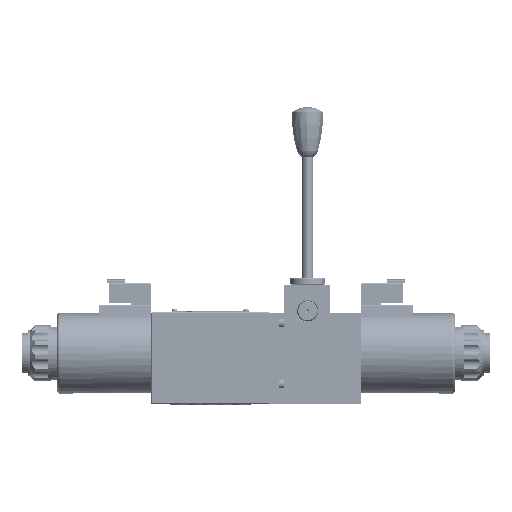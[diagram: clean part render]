
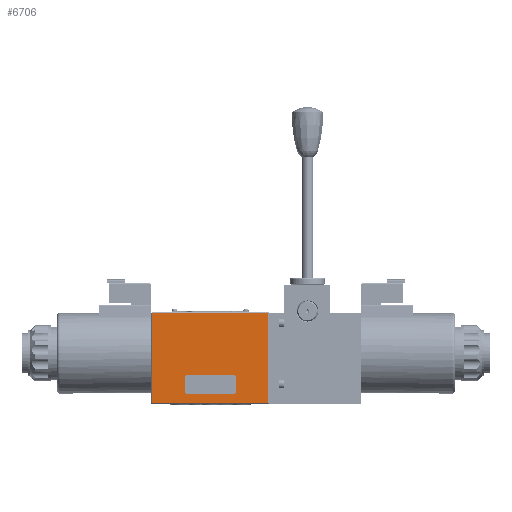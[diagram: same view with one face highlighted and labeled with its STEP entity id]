
A CAD part, front view. The second image highlights one B-rep face of the part: STEP entity #6706.
In plain terms, the highlighted planar face has unit normal (0, -1, 0).
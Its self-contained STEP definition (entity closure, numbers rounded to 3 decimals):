
#2874=LINE('',#50150,#4000);
#2875=LINE('',#50153,#4001);
#2876=LINE('',#50155,#4002);
#2877=LINE('',#50157,#4003);
#2878=LINE('',#50158,#4004);
#2879=LINE('',#50163,#4005);
#2880=LINE('',#50167,#4006);
#2881=LINE('',#50171,#4007);
#4000=VECTOR('',#24646,1.);
#4001=VECTOR('',#24647,1.);
#4002=VECTOR('',#24648,1.);
#4003=VECTOR('',#24649,1.);
#4004=VECTOR('',#24650,1.);
#4005=VECTOR('',#24653,1.);
#4006=VECTOR('',#24656,1.);
#4007=VECTOR('',#24659,1.);
#5969=PLANE('',#22180);
#6706=ADVANCED_FACE('',(#8323,#8324),#5969,.T.);
#8323=FACE_BOUND('',#9114,.T.);
#8324=FACE_BOUND('',#9115,.T.);
#9114=EDGE_LOOP('',(#11316,#11317,#11318,#11319));
#9115=EDGE_LOOP('',(#11320,#11321,#11322,#11323,#11324,#11325,#11326,#11327));
#11316=ORIENTED_EDGE('',*,*,#18896,.T.);
#11317=ORIENTED_EDGE('',*,*,#18897,.T.);
#11318=ORIENTED_EDGE('',*,*,#18898,.T.);
#11319=ORIENTED_EDGE('',*,*,#18899,.T.);
#11320=ORIENTED_EDGE('',*,*,#18900,.F.);
#11321=ORIENTED_EDGE('',*,*,#18901,.F.);
#11322=ORIENTED_EDGE('',*,*,#18902,.F.);
#11323=ORIENTED_EDGE('',*,*,#18903,.F.);
#11324=ORIENTED_EDGE('',*,*,#18904,.F.);
#11325=ORIENTED_EDGE('',*,*,#18905,.F.);
#11326=ORIENTED_EDGE('',*,*,#18906,.F.);
#11327=ORIENTED_EDGE('',*,*,#18907,.F.);
#16834=VERTEX_POINT('',#50151);
#16835=VERTEX_POINT('',#50152);
#16836=VERTEX_POINT('',#50154);
#16837=VERTEX_POINT('',#50156);
#16838=VERTEX_POINT('',#50159);
#16839=VERTEX_POINT('',#50160);
#16840=VERTEX_POINT('',#50162);
#16841=VERTEX_POINT('',#50164);
#16842=VERTEX_POINT('',#50166);
#16843=VERTEX_POINT('',#50168);
#16844=VERTEX_POINT('',#50170);
#16845=VERTEX_POINT('',#50172);
#18896=EDGE_CURVE('',#16834,#16835,#2874,.T.);
#18897=EDGE_CURVE('',#16835,#16836,#2875,.T.);
#18898=EDGE_CURVE('',#16836,#16837,#2876,.T.);
#18899=EDGE_CURVE('',#16837,#16834,#2877,.T.);
#18900=EDGE_CURVE('',#16838,#16839,#2878,.T.);
#18901=EDGE_CURVE('',#16840,#16838,#21275,.T.);
#18902=EDGE_CURVE('',#16841,#16840,#2879,.T.);
#18903=EDGE_CURVE('',#16842,#16841,#21276,.T.);
#18904=EDGE_CURVE('',#16843,#16842,#2880,.T.);
#18905=EDGE_CURVE('',#16844,#16843,#21277,.T.);
#18906=EDGE_CURVE('',#16845,#16844,#2881,.T.);
#18907=EDGE_CURVE('',#16839,#16845,#21278,.T.);
#21275=CIRCLE('',#22176,2.);
#21276=CIRCLE('',#22177,2.);
#21277=CIRCLE('',#22178,2.);
#21278=CIRCLE('',#22179,2.);
#22176=AXIS2_PLACEMENT_3D('',#50161,#24651,#24652);
#22177=AXIS2_PLACEMENT_3D('',#50165,#24654,#24655);
#22178=AXIS2_PLACEMENT_3D('',#50169,#24657,#24658);
#22179=AXIS2_PLACEMENT_3D('',#50173,#24660,#24661);
#22180=AXIS2_PLACEMENT_3D('',#50174,#24662,#24663);
#24646=DIRECTION('',(0.,0.,1.));
#24647=DIRECTION('',(-1.,0.,0.));
#24648=DIRECTION('',(0.,0.,-1.));
#24649=DIRECTION('',(1.,0.,0.));
#24650=DIRECTION('',(1.,0.,0.));
#24651=DIRECTION('',(0.,-1.,0.));
#24652=DIRECTION('',(0.,0.,-1.));
#24653=DIRECTION('',(0.,0.,-1.));
#24654=DIRECTION('',(0.,-1.,0.));
#24655=DIRECTION('',(0.,0.,-1.));
#24656=DIRECTION('',(-1.,0.,0.));
#24657=DIRECTION('',(0.,-1.,0.));
#24658=DIRECTION('',(0.,0.,-1.));
#24659=DIRECTION('',(0.,0.,1.));
#24660=DIRECTION('',(0.,-1.,0.));
#24661=DIRECTION('',(0.,0.,-1.));
#24662=DIRECTION('',(0.,-1.,0.));
#24663=DIRECTION('',(0.,0.,-1.));
#50150=CARTESIAN_POINT('',(89.5,0.,-72.5));
#50151=CARTESIAN_POINT('',(89.5,0.,-71.8));
#50152=CARTESIAN_POINT('',(89.5,0.,-0.7));
#50153=CARTESIAN_POINT('',(-2.2,0.,-0.7));
#50154=CARTESIAN_POINT('',(-1.5,0.,-0.7));
#50155=CARTESIAN_POINT('',(-1.5,0.,-72.5));
#50156=CARTESIAN_POINT('',(-1.5,0.,-71.8));
#50157=CARTESIAN_POINT('',(90.2,0.,-71.8));
#50158=CARTESIAN_POINT('',(-2.2,0.,-64.5));
#50159=CARTESIAN_POINT('',(26.,0.,-64.5));
#50160=CARTESIAN_POINT('',(62.,0.,-64.5));
#50161=CARTESIAN_POINT('',(26.,0.,-62.5));
#50162=CARTESIAN_POINT('',(24.,0.,-62.5));
#50163=CARTESIAN_POINT('',(24.,0.,-72.5));
#50164=CARTESIAN_POINT('',(24.,0.,-51.5));
#50165=CARTESIAN_POINT('',(26.,0.,-51.5));
#50166=CARTESIAN_POINT('',(26.,0.,-49.5));
#50167=CARTESIAN_POINT('',(-2.2,0.,-49.5));
#50168=CARTESIAN_POINT('',(62.,0.,-49.5));
#50169=CARTESIAN_POINT('',(62.,0.,-51.5));
#50170=CARTESIAN_POINT('',(64.,0.,-51.5));
#50171=CARTESIAN_POINT('',(64.,0.,-72.5));
#50172=CARTESIAN_POINT('',(64.,0.,-62.5));
#50173=CARTESIAN_POINT('',(62.,0.,-62.5));
#50174=CARTESIAN_POINT('',(-2.2,0.,-72.5));
